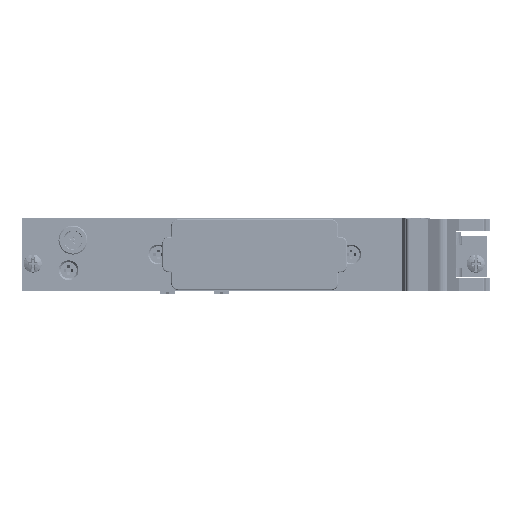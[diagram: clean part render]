
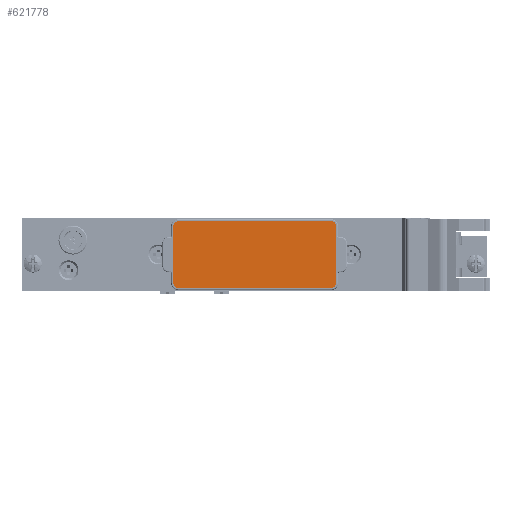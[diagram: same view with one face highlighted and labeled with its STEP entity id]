
A CAD part, left-side view. The second image highlights one B-rep face of the part: STEP entity #621778.
In plain terms, the highlighted planar face has unit normal (-1, 0, 0) as drawn and (0, 0, 1) by its records, which use the part's own axes.
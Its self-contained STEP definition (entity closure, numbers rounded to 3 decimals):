
#4047 = CARTESIAN_POINT ( 'NONE',  ( 8., -20.05, 0.2 ) ) ;
#9339 = DIRECTION ( 'NONE',  ( 1., 0., 0. ) ) ;
#10104 = DIRECTION ( 'NONE',  ( 0., 0., 1. ) ) ;
#13253 = EDGE_CURVE ( 'NONE', #364177, #339928, #329687, .T. ) ;
#19962 = LINE ( 'NONE', #162284, #429346 ) ;
#22501 = ORIENTED_EDGE ( 'NONE', *, *, #170527, .T. ) ;
#31546 = VERTEX_POINT ( 'NONE', #104180 ) ;
#40217 = ORIENTED_EDGE ( 'NONE', *, *, #629712, .T. ) ;
#46176 = DIRECTION ( 'NONE',  ( 1., 0., 0. ) ) ;
#55743 = DIRECTION ( 'NONE',  ( 0., 0., 1. ) ) ;
#59386 = CIRCLE ( 'NONE', #348761, 1.2 ) ;
#61475 = AXIS2_PLACEMENT_3D ( 'NONE', #4047, #55743, #46176 ) ;
#63900 = EDGE_CURVE ( 'NONE', #580854, #325480, #375909, .T. ) ;
#67001 = PLANE ( 'NONE',  #456884 ) ;
#71542 = DIRECTION ( 'NONE',  ( 1., 0., 0. ) ) ;
#76085 = CARTESIAN_POINT ( 'NONE',  ( 8., -21.25, 0.2 ) ) ;
#76161 = CARTESIAN_POINT ( 'NONE',  ( 9.2, -20.05, 0.2 ) ) ;
#85644 = AXIS2_PLACEMENT_3D ( 'NONE', #294047, #549290, #9339 ) ;
#94802 = DIRECTION ( 'NONE',  ( 0., 1., 0. ) ) ;
#98001 = VECTOR ( 'NONE', #282169, 1000. ) ;
#104180 = CARTESIAN_POINT ( 'NONE',  ( -8., 23.75, 0.2 ) ) ;
#132172 = EDGE_CURVE ( 'NONE', #371046, #398838, #295362, .T. ) ;
#142085 = CARTESIAN_POINT ( 'NONE',  ( -9.2, -20.05, 0.2 ) ) ;
#148948 = ORIENTED_EDGE ( 'NONE', *, *, #208153, .T. ) ;
#162284 = CARTESIAN_POINT ( 'NONE',  ( -8., -21.25, 0.2 ) ) ;
#164160 = DIRECTION ( 'NONE',  ( 1., 0., 0. ) ) ;
#170527 = EDGE_CURVE ( 'NONE', #339928, #371046, #537796, .T. ) ;
#185393 = CARTESIAN_POINT ( 'NONE',  ( -9.2, 22.55, 0.2 ) ) ;
#192045 = AXIS2_PLACEMENT_3D ( 'NONE', #459331, #10104, #601756 ) ;
#201461 = ORIENTED_EDGE ( 'NONE', *, *, #132172, .T. ) ;
#208153 = EDGE_CURVE ( 'NONE', #325480, #265094, #59386, .T. ) ;
#209523 = FACE_OUTER_BOUND ( 'NONE', #442034, .T. ) ;
#231621 = LINE ( 'NONE', #525828, #422028 ) ;
#265094 = VERTEX_POINT ( 'NONE', #416362 ) ;
#282169 = DIRECTION ( 'NONE',  ( 0., -1., 0. ) ) ;
#288006 = DIRECTION ( 'NONE',  ( 0., 0., 1. ) ) ;
#291213 = CARTESIAN_POINT ( 'NONE',  ( -8., -20.05, 0.2 ) ) ;
#294047 = CARTESIAN_POINT ( 'NONE',  ( -8., 22.55, 0.2 ) ) ;
#295362 = CIRCLE ( 'NONE', #192045, 1.2 ) ;
#325348 = DIRECTION ( 'NONE',  ( -1., 0., 0. ) ) ;
#325480 = VERTEX_POINT ( 'NONE', #142085 ) ;
#327472 = CARTESIAN_POINT ( 'NONE',  ( -9.2, 22.55, 0.2 ) ) ;
#329687 = CIRCLE ( 'NONE', #61475, 1.2 ) ;
#339928 = VERTEX_POINT ( 'NONE', #76161 ) ;
#348761 = AXIS2_PLACEMENT_3D ( 'NONE', #291213, #288006, #579160 ) ;
#349369 = ORIENTED_EDGE ( 'NONE', *, *, #358965, .T. ) ;
#358965 = EDGE_CURVE ( 'NONE', #398838, #31546, #231621, .T. ) ;
#364177 = VERTEX_POINT ( 'NONE', #76085 ) ;
#364399 = CIRCLE ( 'NONE', #85644, 1.2 ) ;
#369300 = ORIENTED_EDGE ( 'NONE', *, *, #533113, .T. ) ;
#371046 = VERTEX_POINT ( 'NONE', #581804 ) ;
#375909 = LINE ( 'NONE', #327472, #98001 ) ;
#383072 = ORIENTED_EDGE ( 'NONE', *, *, #63900, .T. ) ;
#397047 = CARTESIAN_POINT ( 'NONE',  ( 8., -20.05, 0.2 ) ) ;
#398838 = VERTEX_POINT ( 'NONE', #544566 ) ;
#416362 = CARTESIAN_POINT ( 'NONE',  ( -8., -21.25, 0.2 ) ) ;
#422028 = VECTOR ( 'NONE', #325348, 1000. ) ;
#429346 = VECTOR ( 'NONE', #71542, 1000. ) ;
#436113 = VECTOR ( 'NONE', #94802, 1000. ) ;
#442034 = EDGE_LOOP ( 'NONE', ( #510530, #22501, #201461, #349369, #369300, #383072, #148948, #40217 ) ) ;
#456884 = AXIS2_PLACEMENT_3D ( 'NONE', #397047, #558617, #164160 ) ;
#459331 = CARTESIAN_POINT ( 'NONE',  ( 8., 22.55, 0.2 ) ) ;
#510530 = ORIENTED_EDGE ( 'NONE', *, *, #13253, .T. ) ;
#525828 = CARTESIAN_POINT ( 'NONE',  ( 8., 23.75, 0.2 ) ) ;
#533113 = EDGE_CURVE ( 'NONE', #31546, #580854, #364399, .T. ) ;
#537796 = LINE ( 'NONE', #540926, #436113 ) ;
#540926 = CARTESIAN_POINT ( 'NONE',  ( 9.2, -20.05, 0.2 ) ) ;
#544566 = CARTESIAN_POINT ( 'NONE',  ( 8., 23.75, 0.2 ) ) ;
#549290 = DIRECTION ( 'NONE',  ( 0., 0., 1. ) ) ;
#558617 = DIRECTION ( 'NONE',  ( 0., 0., 1. ) ) ;
#579160 = DIRECTION ( 'NONE',  ( 1., 0., 0. ) ) ;
#580854 = VERTEX_POINT ( 'NONE', #185393 ) ;
#581804 = CARTESIAN_POINT ( 'NONE',  ( 9.2, 22.55, 0.2 ) ) ;
#601756 = DIRECTION ( 'NONE',  ( 1., 0., 0. ) ) ;
#621778 = ADVANCED_FACE ( 'NONE', ( #209523 ), #67001, .T. ) ;
#629712 = EDGE_CURVE ( 'NONE', #265094, #364177, #19962, .T. ) ;
